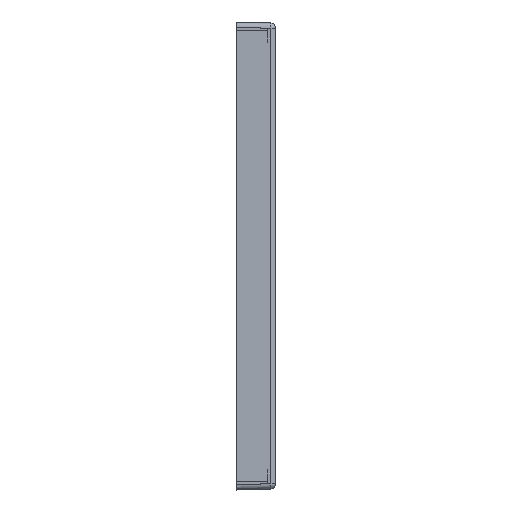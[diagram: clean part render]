
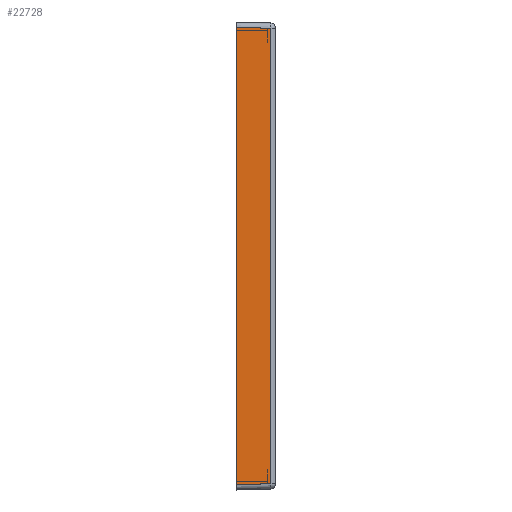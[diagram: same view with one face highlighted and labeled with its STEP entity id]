
A CAD part, left-side view. The second image highlights one B-rep face of the part: STEP entity #22728.
In plain terms, the highlighted planar face has unit normal (-1, -0.026, 0).
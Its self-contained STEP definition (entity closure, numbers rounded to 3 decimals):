
#753 = DIRECTION ( 'NONE',  ( 0., 0., -1. ) ) ;
#2647 = CARTESIAN_POINT ( 'NONE',  ( -181.834, -5.326, 38.835 ) ) ;
#3616 = CARTESIAN_POINT ( 'NONE',  ( -181.834, -5.326, -47. ) ) ;
#3882 = EDGE_CURVE ( 'NONE', #14780, #16634, #17210, .T. ) ;
#5494 = EDGE_CURVE ( 'NONE', #6157, #14780, #31148, .T. ) ;
#5698 = LINE ( 'NONE', #3616, #14815 ) ;
#6157 = VERTEX_POINT ( 'NONE', #2647 ) ;
#7643 = CARTESIAN_POINT ( 'NONE',  ( -182., 1., -47. ) ) ;
#8960 = AXIS2_PLACEMENT_3D ( 'NONE', #20215, #15404, #28042 ) ;
#9375 = VECTOR ( 'NONE', #28244, 1000. ) ;
#10472 = PLANE ( 'NONE',  #8960 ) ;
#12852 = ORIENTED_EDGE ( 'NONE', *, *, #5494, .T. ) ;
#12855 = FACE_OUTER_BOUND ( 'NONE', #19831, .T. ) ;
#13861 = CARTESIAN_POINT ( 'NONE',  ( -182.001, 1.026, -46.001 ) ) ;
#14120 = EDGE_CURVE ( 'NONE', #16634, #16446, #18341, .T. ) ;
#14780 = VERTEX_POINT ( 'NONE', #15063 ) ;
#14815 = VECTOR ( 'NONE', #22297, 1000. ) ;
#15063 = CARTESIAN_POINT ( 'NONE',  ( -182., 1., 39. ) ) ;
#15404 = DIRECTION ( 'NONE',  ( -1., -0.026, 0. ) ) ;
#16131 = ORIENTED_EDGE ( 'NONE', *, *, #3882, .T. ) ;
#16446 = VERTEX_POINT ( 'NONE', #24386 ) ;
#16634 = VERTEX_POINT ( 'NONE', #27727 ) ;
#16895 = DIRECTION ( 'NONE',  ( -0.026, 0.999, 0.026 ) ) ;
#17210 = LINE ( 'NONE', #7643, #24213 ) ;
#18341 = LINE ( 'NONE', #13861, #9375 ) ;
#19143 = CARTESIAN_POINT ( 'NONE',  ( -181.941, -1.249, 38.941 ) ) ;
#19831 = EDGE_LOOP ( 'NONE', ( #16131, #20383, #22013, #12852 ) ) ;
#20215 = CARTESIAN_POINT ( 'NONE',  ( -182., 1., -47. ) ) ;
#20383 = ORIENTED_EDGE ( 'NONE', *, *, #14120, .T. ) ;
#22013 = ORIENTED_EDGE ( 'NONE', *, *, #29034, .T. ) ;
#22297 = DIRECTION ( 'NONE',  ( 0., 0., 1. ) ) ;
#22728 = ADVANCED_FACE ( 'NONE', ( #12855 ), #10472, .T. ) ;
#24213 = VECTOR ( 'NONE', #753, 1000. ) ;
#24386 = CARTESIAN_POINT ( 'NONE',  ( -181.834, -5.326, -45.835 ) ) ;
#26342 = VECTOR ( 'NONE', #16895, 1000. ) ;
#27727 = CARTESIAN_POINT ( 'NONE',  ( -182., 1., -46. ) ) ;
#28042 = DIRECTION ( 'NONE',  ( -0.026, 1., 0. ) ) ;
#28244 = DIRECTION ( 'NONE',  ( 0.026, -0.999, 0.026 ) ) ;
#29034 = EDGE_CURVE ( 'NONE', #16446, #6157, #5698, .T. ) ;
#31148 = LINE ( 'NONE', #19143, #26342 ) ;
